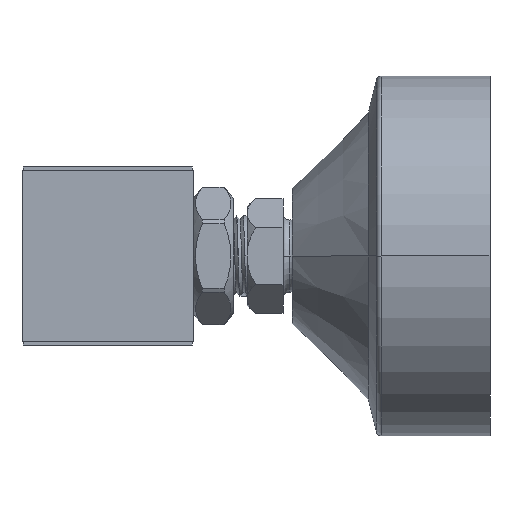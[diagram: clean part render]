
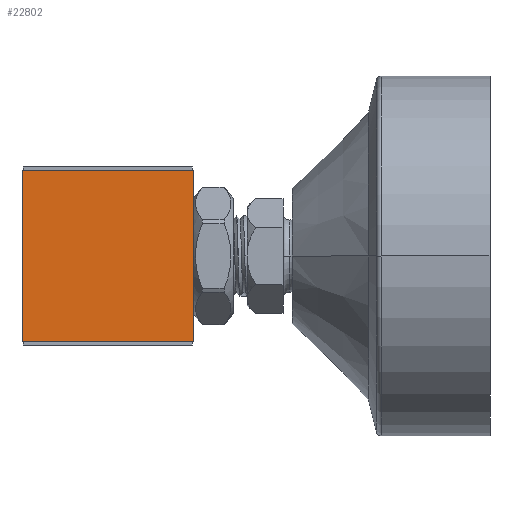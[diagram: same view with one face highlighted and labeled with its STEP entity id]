
A CAD part, left-side view. The second image highlights one B-rep face of the part: STEP entity #22802.
In plain terms, the highlighted planar face has unit normal (-1, 0, 0).
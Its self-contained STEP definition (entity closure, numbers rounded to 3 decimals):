
#1918 = CARTESIAN_POINT ( 'NONE',  ( -19., 43.9, 19.05 ) ) ;
#3576 = VERTEX_POINT ( 'NONE', #28904 ) ;
#4383 = PLANE ( 'NONE',  #24826 ) ;
#4715 = LINE ( 'NONE', #1918, #27738 ) ;
#6071 = ORIENTED_EDGE ( 'NONE', *, *, #7856, .F. ) ;
#6540 = FACE_OUTER_BOUND ( 'NONE', #10597, .T. ) ;
#7406 = VECTOR ( 'NONE', #17212, 1000. ) ;
#7407 = CARTESIAN_POINT ( 'NONE',  ( -19., 43.9, -19.05 ) ) ;
#7856 = EDGE_CURVE ( 'NONE', #3576, #12453, #13513, .T. ) ;
#8991 = DIRECTION ( 'NONE',  ( 0., 0., 1. ) ) ;
#10259 = CARTESIAN_POINT ( 'NONE',  ( -19., 82., -19.05 ) ) ;
#10597 = EDGE_LOOP ( 'NONE', ( #19216, #15288, #14066, #6071 ) ) ;
#11694 = VERTEX_POINT ( 'NONE', #21850 ) ;
#12453 = VERTEX_POINT ( 'NONE', #7407 ) ;
#13422 = VERTEX_POINT ( 'NONE', #10259 ) ;
#13451 = EDGE_CURVE ( 'NONE', #12453, #13422, #16437, .T. ) ;
#13513 = LINE ( 'NONE', #14900, #7406 ) ;
#14066 = ORIENTED_EDGE ( 'NONE', *, *, #13451, .F. ) ;
#14900 = CARTESIAN_POINT ( 'NONE',  ( -19., 43.9, -19.05 ) ) ;
#15148 = LINE ( 'NONE', #28510, #22694 ) ;
#15288 = ORIENTED_EDGE ( 'NONE', *, *, #27407, .F. ) ;
#16437 = LINE ( 'NONE', #26362, #27931 ) ;
#17212 = DIRECTION ( 'NONE',  ( 0., 0., -1. ) ) ;
#19216 = ORIENTED_EDGE ( 'NONE', *, *, #26320, .F. ) ;
#20475 = CARTESIAN_POINT ( 'NONE',  ( -19., 62.95, 0. ) ) ;
#21850 = CARTESIAN_POINT ( 'NONE',  ( -19., 82., 19.05 ) ) ;
#22694 = VECTOR ( 'NONE', #23880, 1000. ) ;
#22784 = DIRECTION ( 'NONE',  ( 1., 0., 0. ) ) ;
#22802 = ADVANCED_FACE ( 'NONE', ( #6540 ), #4383, .F. ) ;
#23880 = DIRECTION ( 'NONE',  ( 0., 0., 1. ) ) ;
#24826 = AXIS2_PLACEMENT_3D ( 'NONE', #20475, #22784, #8991 ) ;
#24941 = DIRECTION ( 'NONE',  ( 0., -1., 0. ) ) ;
#26320 = EDGE_CURVE ( 'NONE', #11694, #3576, #4715, .T. ) ;
#26362 = CARTESIAN_POINT ( 'NONE',  ( -19., 43.9, -19.05 ) ) ;
#27407 = EDGE_CURVE ( 'NONE', #13422, #11694, #15148, .T. ) ;
#27738 = VECTOR ( 'NONE', #24941, 1000. ) ;
#27931 = VECTOR ( 'NONE', #28694, 1000. ) ;
#28510 = CARTESIAN_POINT ( 'NONE',  ( -19., 82., -19.05 ) ) ;
#28694 = DIRECTION ( 'NONE',  ( 0., 1., 0. ) ) ;
#28904 = CARTESIAN_POINT ( 'NONE',  ( -19., 43.9, 19.05 ) ) ;
